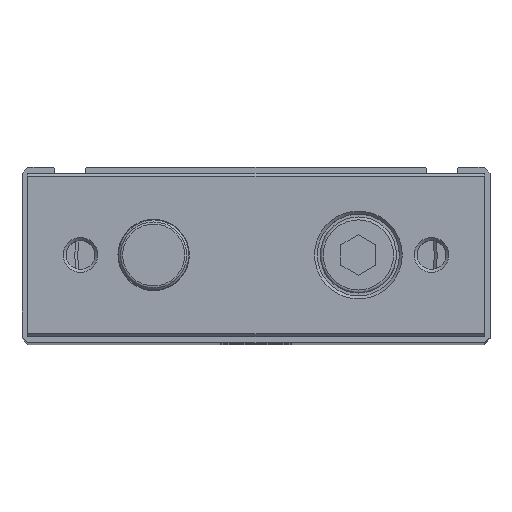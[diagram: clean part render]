
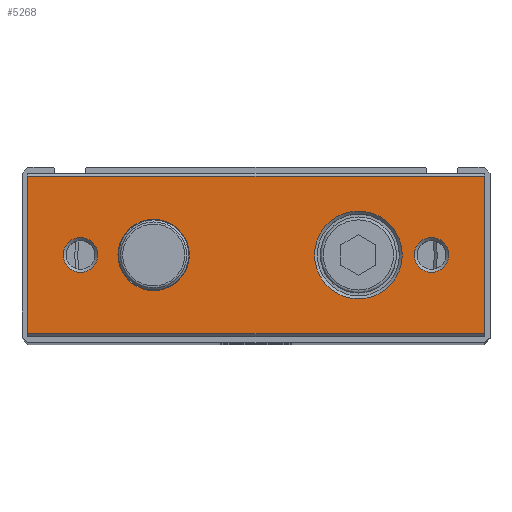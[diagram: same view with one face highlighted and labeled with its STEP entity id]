
A CAD part, top view. The second image highlights one B-rep face of the part: STEP entity #5268.
In plain terms, the highlighted planar face has unit normal (0, 0, 1).
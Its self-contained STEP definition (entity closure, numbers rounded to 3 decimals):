
#3994=CARTESIAN_POINT('',(-39.0,-13.5,176.0));
#3995=VERTEX_POINT('',#3994);
#4002=CARTESIAN_POINT('',(-39.0,13.5,176.0));
#4003=VERTEX_POINT('',#4002);
#4004=CARTESIAN_POINT('',(-39.0,13.5,176.0));
#4005=DIRECTION('',(0.0,-1.0,0.0));
#4006=VECTOR('',#4005,27.);
#4007=LINE('',#4004,#4006);
#4008=EDGE_CURVE('',#4003,#3995,#4007,.T.);
#4122=CARTESIAN_POINT('',(39.0,-13.5,176.0));
#4123=VERTEX_POINT('',#4122);
#4130=CARTESIAN_POINT('',(39.0,-13.5,176.0));
#4131=DIRECTION('',(-1.0,0.0,0.0));
#4132=VECTOR('',#4131,78.0);
#4133=LINE('',#4130,#4132);
#4134=EDGE_CURVE('',#4123,#3995,#4133,.T.);
#4201=CARTESIAN_POINT('',(39.0,13.5,176.0));
#4202=VERTEX_POINT('',#4201);
#4209=CARTESIAN_POINT('',(39.0,-13.5,176.0));
#4210=DIRECTION('',(0.0,1.0,0.0));
#4211=VECTOR('',#4210,27.);
#4212=LINE('',#4209,#4211);
#4213=EDGE_CURVE('',#4123,#4202,#4212,.T.);
#5204=CARTESIAN_POINT('',(-27.042,0.,176.0));
#5205=VERTEX_POINT('',#5204);
#5206=CARTESIAN_POINT('',(-30.0,0.,176.0));
#5207=DIRECTION('',(0.0,0.0,1.0));
#5208=DIRECTION('',(-1.0,0.0,0.0));
#5209=AXIS2_PLACEMENT_3D('',#5206,#5207,#5208);
#5210=CIRCLE('',#5209,2.958);
#5211=EDGE_CURVE('',#5205,#5205,#5210,.T.);
#5216=CARTESIAN_POINT('',(0.0,-14.,176.0));
#5217=DIRECTION('',(0.0,0.0,1.0));
#5218=DIRECTION('',(1.0,0.0,0.0));
#5219=AXIS2_PLACEMENT_3D('',#5216,#5217,#5218);
#5220=PLANE('',#5219);
#5221=ORIENTED_EDGE('',*,*,#4134,.F.);
#5222=ORIENTED_EDGE('',*,*,#4213,.T.);
#5223=CARTESIAN_POINT('',(-39.0,13.5,176.0));
#5224=DIRECTION('',(1.0,0.0,0.0));
#5225=VECTOR('',#5224,78.0);
#5226=LINE('',#5223,#5225);
#5227=EDGE_CURVE('',#4003,#4202,#5226,.T.);
#5228=ORIENTED_EDGE('',*,*,#5227,.F.);
#5229=ORIENTED_EDGE('',*,*,#4008,.T.);
#5230=EDGE_LOOP('',(#5221,#5222,#5228,#5229));
#5231=FACE_OUTER_BOUND('',#5230,.T.);
#5232=CARTESIAN_POINT('',(32.959,0.,176.0));
#5233=VERTEX_POINT('',#5232);
#5234=CARTESIAN_POINT('',(30.0,0.,176.0));
#5235=DIRECTION('',(0.0,0.0,1.0));
#5236=DIRECTION('',(-1.0,0.0,0.0));
#5237=AXIS2_PLACEMENT_3D('',#5234,#5235,#5236);
#5238=CIRCLE('',#5237,2.958);
#5239=EDGE_CURVE('',#5233,#5233,#5238,.T.);
#5240=ORIENTED_EDGE('',*,*,#5239,.F.);
#5241=EDGE_LOOP('',(#5240));
#5242=FACE_BOUND('',#5241,.T.);
#5243=CARTESIAN_POINT('',(-11.4,0.,176.0));
#5244=VERTEX_POINT('',#5243);
#5245=CARTESIAN_POINT('',(-17.5,0.,176.0));
#5246=DIRECTION('',(0.0,0.0,-1.0));
#5247=DIRECTION('',(-1.0,0.0,0.0));
#5248=AXIS2_PLACEMENT_3D('',#5245,#5246,#5247);
#5249=CIRCLE('',#5248,6.1);
#5250=EDGE_CURVE('',#5244,#5244,#5249,.T.);
#5251=ORIENTED_EDGE('',*,*,#5250,.T.);
#5252=EDGE_LOOP('',(#5251));
#5253=FACE_BOUND('',#5252,.T.);
#5254=CARTESIAN_POINT('',(25.0,0.,176.0));
#5255=VERTEX_POINT('',#5254);
#5256=CARTESIAN_POINT('',(17.5,0.,176.0));
#5257=DIRECTION('',(0.0,0.0,1.0));
#5258=DIRECTION('',(-1.0,0.0,0.0));
#5259=AXIS2_PLACEMENT_3D('',#5256,#5257,#5258);
#5260=CIRCLE('',#5259,7.5);
#5261=EDGE_CURVE('',#5255,#5255,#5260,.T.);
#5262=ORIENTED_EDGE('',*,*,#5261,.F.);
#5263=EDGE_LOOP('',(#5262));
#5264=FACE_BOUND('',#5263,.T.);
#5265=ORIENTED_EDGE('',*,*,#5211,.F.);
#5266=EDGE_LOOP('',(#5265));
#5267=FACE_BOUND('',#5266,.T.);
#5268=ADVANCED_FACE('',(#5231,#5242,#5253,#5264,#5267),#5220,.T.);
